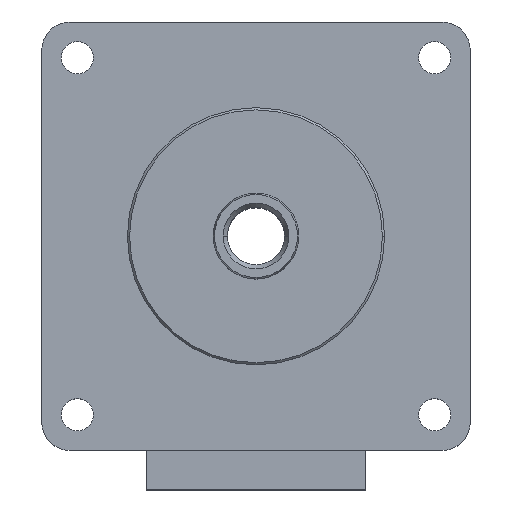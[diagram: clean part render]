
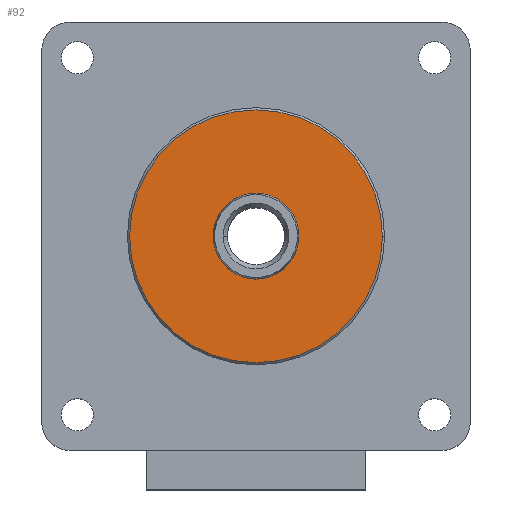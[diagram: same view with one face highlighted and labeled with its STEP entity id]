
A CAD part, top view. The second image highlights one B-rep face of the part: STEP entity #92.
In plain terms, the highlighted planar face has unit normal (0, 0, 1).
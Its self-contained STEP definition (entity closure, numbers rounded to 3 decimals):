
#9 = CARTESIAN_POINT ( 'NONE',  ( 6., 0., 20. ) ) ;
#57 = AXIS2_PLACEMENT_3D ( 'NONE', #2439, #1991, #245 ) ;
#92 = ADVANCED_FACE ( 'NONE', ( #556, #2392 ), #1862, .T. ) ;
#112 = AXIS2_PLACEMENT_3D ( 'NONE', #353, #776, #2518 ) ;
#140 = DIRECTION ( 'NONE',  ( 1., 0., 0. ) ) ;
#245 = DIRECTION ( 'NONE',  ( 1., 0., 0. ) ) ;
#262 = EDGE_CURVE ( 'NONE', #1751, #1704, #1017, .T. ) ;
#284 = AXIS2_PLACEMENT_3D ( 'NONE', #2482, #2504, #140 ) ;
#353 = CARTESIAN_POINT ( 'NONE',  ( 0., 0., 20. ) ) ;
#396 = EDGE_LOOP ( 'NONE', ( #1583, #1211 ) ) ;
#556 = FACE_OUTER_BOUND ( 'NONE', #1897, .T. ) ;
#597 = EDGE_CURVE ( 'NONE', #929, #2669, #2219, .T. ) ;
#776 = DIRECTION ( 'NONE',  ( 0., 0., 1. ) ) ;
#814 = CIRCLE ( 'NONE', #284, 17.7 ) ;
#929 = VERTEX_POINT ( 'NONE', #9 ) ;
#975 = EDGE_CURVE ( 'NONE', #2669, #929, #2287, .T. ) ;
#999 = AXIS2_PLACEMENT_3D ( 'NONE', #2561, #1047, #2763 ) ;
#1017 = CIRCLE ( 'NONE', #999, 17.7 ) ;
#1047 = DIRECTION ( 'NONE',  ( 0., 0., 1. ) ) ;
#1211 = ORIENTED_EDGE ( 'NONE', *, *, #597, .F. ) ;
#1222 = DIRECTION ( 'NONE',  ( 1., 0., 0. ) ) ;
#1321 = CARTESIAN_POINT ( 'NONE',  ( -17.7, 0., 20. ) ) ;
#1456 = EDGE_CURVE ( 'NONE', #1704, #1751, #814, .T. ) ;
#1583 = ORIENTED_EDGE ( 'NONE', *, *, #975, .F. ) ;
#1704 = VERTEX_POINT ( 'NONE', #1321 ) ;
#1751 = VERTEX_POINT ( 'NONE', #1967 ) ;
#1849 = CARTESIAN_POINT ( 'NONE',  ( 0., 0., 20. ) ) ;
#1862 = PLANE ( 'NONE',  #2336 ) ;
#1882 = CARTESIAN_POINT ( 'NONE',  ( -6., 0., 20. ) ) ;
#1897 = EDGE_LOOP ( 'NONE', ( #1934, #2185 ) ) ;
#1934 = ORIENTED_EDGE ( 'NONE', *, *, #1456, .T. ) ;
#1967 = CARTESIAN_POINT ( 'NONE',  ( 17.7, 0., 20. ) ) ;
#1991 = DIRECTION ( 'NONE',  ( 0., 0., 1. ) ) ;
#2185 = ORIENTED_EDGE ( 'NONE', *, *, #262, .T. ) ;
#2219 = CIRCLE ( 'NONE', #112, 6. ) ;
#2287 = CIRCLE ( 'NONE', #57, 6. ) ;
#2336 = AXIS2_PLACEMENT_3D ( 'NONE', #1849, #2503, #1222 ) ;
#2392 = FACE_BOUND ( 'NONE', #396, .T. ) ;
#2439 = CARTESIAN_POINT ( 'NONE',  ( 0., 0., 20. ) ) ;
#2482 = CARTESIAN_POINT ( 'NONE',  ( 0., 0., 20. ) ) ;
#2503 = DIRECTION ( 'NONE',  ( 0., 0., 1. ) ) ;
#2504 = DIRECTION ( 'NONE',  ( 0., 0., 1. ) ) ;
#2518 = DIRECTION ( 'NONE',  ( 1., 0., 0. ) ) ;
#2561 = CARTESIAN_POINT ( 'NONE',  ( 0., 0., 20. ) ) ;
#2669 = VERTEX_POINT ( 'NONE', #1882 ) ;
#2763 = DIRECTION ( 'NONE',  ( 1., 0., 0. ) ) ;
